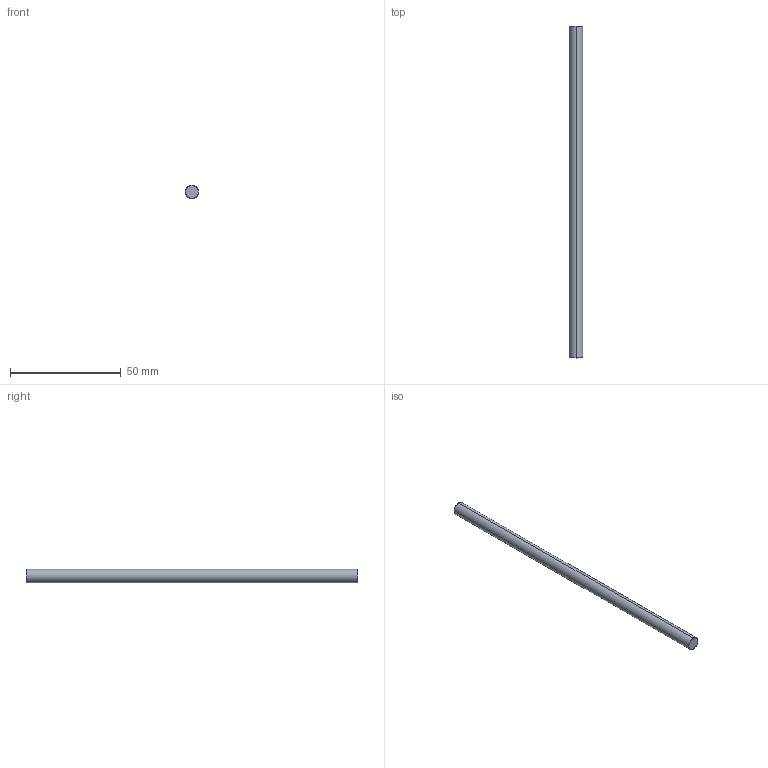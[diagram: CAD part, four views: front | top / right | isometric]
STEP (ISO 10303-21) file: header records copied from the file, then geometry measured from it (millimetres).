
FILE_DESCRIPTION (( 'STEP AP203' ), '1' );
FILE_NAME ('2100-0006-0150.STEP', '2018-02-12T22:17:20', ( '' ), ( '' ), 'SwSTEP 2.0', 'SolidWorks 2016', '' );
FILE_SCHEMA (( 'CONFIG_CONTROL_DESIGN' ));
Length unit declared in the file: millimetre
Products named in the file (1): 2100-0006-0150
Bounding box: 6 x 150 x 6 mm (x, y, z)
Volume: 4240.9 mm3; surface area: 2881.2 mm2
Topology: 1 solids, 1 shells, 8 faces, 14 edges, 8 vertices
Faces by surface type: cone 4, cylinder 2, plane 2
Entity records: 271 total; most frequent: DIRECTION 40, CARTESIAN_POINT 31, ORIENTED_EDGE 28, AXIS2_PLACEMENT_3D 17, EDGE_CURVE 14, ADVANCED_FACE 8, FACE_OUTER_BOUND 8, PERSON_AND_ORGANIZATION 8
